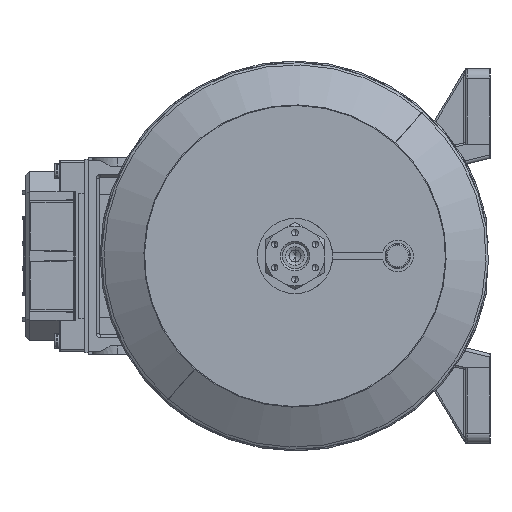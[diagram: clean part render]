
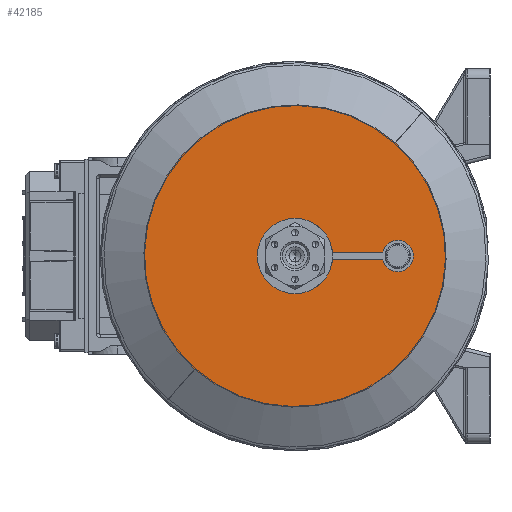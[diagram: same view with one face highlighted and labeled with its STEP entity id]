
A CAD part, left-side view. The second image highlights one B-rep face of the part: STEP entity #42185.
In plain terms, the highlighted planar face has unit normal (-1, 0, 0) as drawn and (0, -1, 0) by its records, which use the part's own axes.
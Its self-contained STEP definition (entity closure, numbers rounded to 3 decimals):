
#3104 = EDGE_LOOP ( 'NONE', ( #49860, #63174 ) ) ;
#4075 = CARTESIAN_POINT ( 'NONE',  ( 0., 0., 13.5 ) ) ;
#6504 = EDGE_CURVE ( 'NONE', #75999, #97284, #67360, .T. ) ;
#11308 = CARTESIAN_POINT ( 'NONE',  ( 0., 0., 0. ) ) ;
#14488 = DIRECTION ( 'NONE',  ( 0., 1., 0. ) ) ;
#15472 = CARTESIAN_POINT ( 'NONE',  ( 0., 0., -77.5 ) ) ;
#19658 = DIRECTION ( 'NONE',  ( 0., 0., 1. ) ) ;
#25302 = CIRCLE ( 'NONE', #71303, 77.5 ) ;
#31099 = AXIS2_PLACEMENT_3D ( 'NONE', #48765, #90293, #40814 ) ;
#33937 = VERTEX_POINT ( 'NONE', #88147 ) ;
#39980 = AXIS2_PLACEMENT_3D ( 'NONE', #11308, #69189, #19658 ) ;
#40177 = EDGE_CURVE ( 'NONE', #33937, #54365, #57409, .T. ) ;
#40814 = DIRECTION ( 'NONE',  ( 0., 0., -1. ) ) ;
#42185 = ADVANCED_FACE ( 'NONE', ( #98517, #101106 ), #106571, .T. ) ;
#42743 = DIRECTION ( 'NONE',  ( 0., 1., 0. ) ) ;
#46141 = AXIS2_PLACEMENT_3D ( 'NONE', #63997, #14488, #72347 ) ;
#48765 = CARTESIAN_POINT ( 'NONE',  ( -13.5, 0., 0. ) ) ;
#49441 = DIRECTION ( 'NONE',  ( 0., 1., 0. ) ) ;
#49860 = ORIENTED_EDGE ( 'NONE', *, *, #52753, .F. ) ;
#52753 = EDGE_CURVE ( 'NONE', #97284, #75999, #25302, .T. ) ;
#54365 = VERTEX_POINT ( 'NONE', #4075 ) ;
#57409 = CIRCLE ( 'NONE', #39980, 13.5 ) ;
#63174 = ORIENTED_EDGE ( 'NONE', *, *, #6504, .F. ) ;
#63997 = CARTESIAN_POINT ( 'NONE',  ( 0., 0., 0. ) ) ;
#64148 = CIRCLE ( 'NONE', #46141, 13.5 ) ;
#67360 = CIRCLE ( 'NONE', #95598, 77.5 ) ;
#69189 = DIRECTION ( 'NONE',  ( 0., 1., 0. ) ) ;
#70754 = CARTESIAN_POINT ( 'NONE',  ( 0., 0., 77.5 ) ) ;
#71303 = AXIS2_PLACEMENT_3D ( 'NONE', #98917, #49441, #107253 ) ;
#72347 = DIRECTION ( 'NONE',  ( 0., 0., 1. ) ) ;
#75999 = VERTEX_POINT ( 'NONE', #15472 ) ;
#77447 = EDGE_LOOP ( 'NONE', ( #83437, #106795 ) ) ;
#83437 = ORIENTED_EDGE ( 'NONE', *, *, #100812, .T. ) ;
#88147 = CARTESIAN_POINT ( 'NONE',  ( 0., 0., -13.5 ) ) ;
#90293 = DIRECTION ( 'NONE',  ( 0., -1., 0. ) ) ;
#92276 = CARTESIAN_POINT ( 'NONE',  ( 0., 0., 0. ) ) ;
#95598 = AXIS2_PLACEMENT_3D ( 'NONE', #92276, #42743, #100570 ) ;
#97284 = VERTEX_POINT ( 'NONE', #70754 ) ;
#98517 = FACE_BOUND ( 'NONE', #77447, .T. ) ;
#98917 = CARTESIAN_POINT ( 'NONE',  ( 0., 0., 0. ) ) ;
#100570 = DIRECTION ( 'NONE',  ( 0., 0., 1. ) ) ;
#100812 = EDGE_CURVE ( 'NONE', #54365, #33937, #64148, .T. ) ;
#101106 = FACE_OUTER_BOUND ( 'NONE', #3104, .T. ) ;
#106571 = PLANE ( 'NONE',  #31099 ) ;
#106795 = ORIENTED_EDGE ( 'NONE', *, *, #40177, .T. ) ;
#107253 = DIRECTION ( 'NONE',  ( 0., 0., 1. ) ) ;
